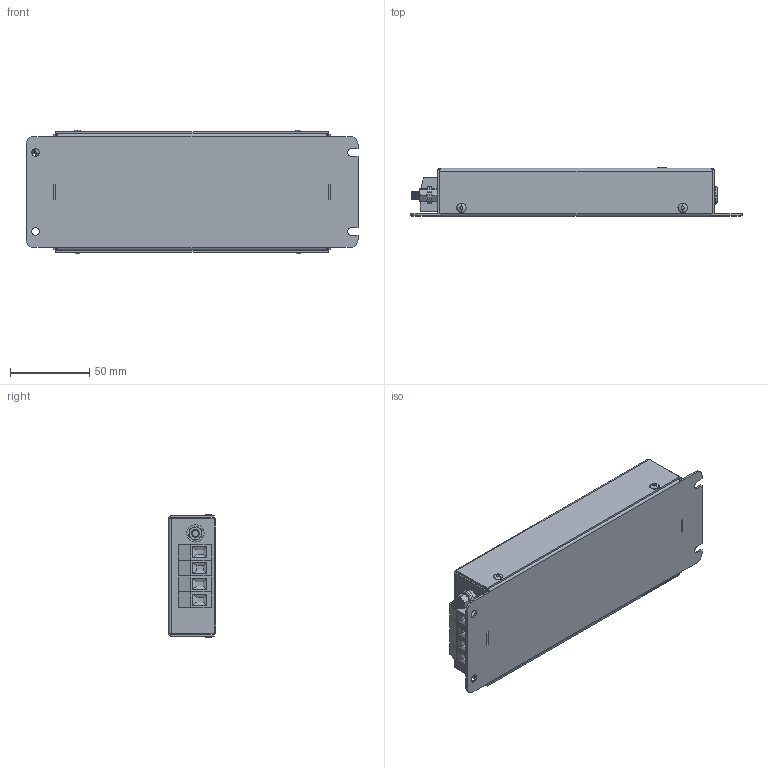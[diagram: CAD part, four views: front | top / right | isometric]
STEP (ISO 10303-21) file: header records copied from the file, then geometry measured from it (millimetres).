
FILE_DESCRIPTION (( 'STEP AP203' ), '1' );
FILE_NAME ('RF1009-SG7 assembly.STEP', '2016-03-09T15:52:25', ( '' ), ( '' ), 'SwSTEP 2.0', 'SolidWorks 2016', '' );
FILE_SCHEMA (( 'CONFIG_CONTROL_DESIGN' ));
Length unit declared in the file: millimetre
Products named in the file (14): sig5-1 mk3 pcb; Flat Washer Narrow_AM_B18.22M - Plain washer, 5 mm, narrow; RF1009-SG7 assembly; RF1009-SG7 box; Grommet_15065; RF1009-SG7 LID; blind fastener_pmm_PEM B-M4-1 ZI--N; hex nut style 1_am_B18.2.4.1M - Hex nut, Style 1,  M5 x 0.8 --D-N; Hex Screw_AM_B18.6.7M - M5 x 0.8 x 13 Indented HHMS --13S; 3.5mm Rivet; M5x20 Earth post; M4 Hank; VDFK-4; SG7-C
Assembly tree (25 placements, depth 3):
  RF1009-SG7 assembly
    RF1009-SG7 box
    RF1009-SG7 LID
    M5x20 Earth post
      Flat Washer Narrow_AM_B18.22M - Plain washer, 5 mm, narrow  x2
      hex nut style 1_am_B18.2.4.1M - Hex nut, Style 1,  M5 x 0.8 --D-N
      Hex Screw_AM_B18.6.7M - M5 x 0.8 x 13 Indented HHMS --13S
    Grommet_15065  x2
    3.5mm Rivet  x4
    VDFK-4  x4
    sig5-1 mk3 pcb
    M4 Hank  x2
    SG7-C
    blind fastener_pmm_PEM B-M4-1 ZI--N  x4
Bounding box: 210 x 30.3 x 78 mm (x, y, z)
Volume: 75256.1 mm3; surface area: 114324.9 mm2
Topology: 24 solids, 24 shells, 966 faces, 2402 edges, 1524 vertices
Faces by surface type: plane 474, cylinder 284, cone 156, bspline 36, torus 16
Entity records: 19683 total; most frequent: CARTESIAN_POINT 4134, DIRECTION 2921, ORIENTED_EDGE 2786, EDGE_CURVE 1393, AXIS2_PLACEMENT_3D 1092, VERTEX_POINT 881, VECTOR 737, LINE 737
